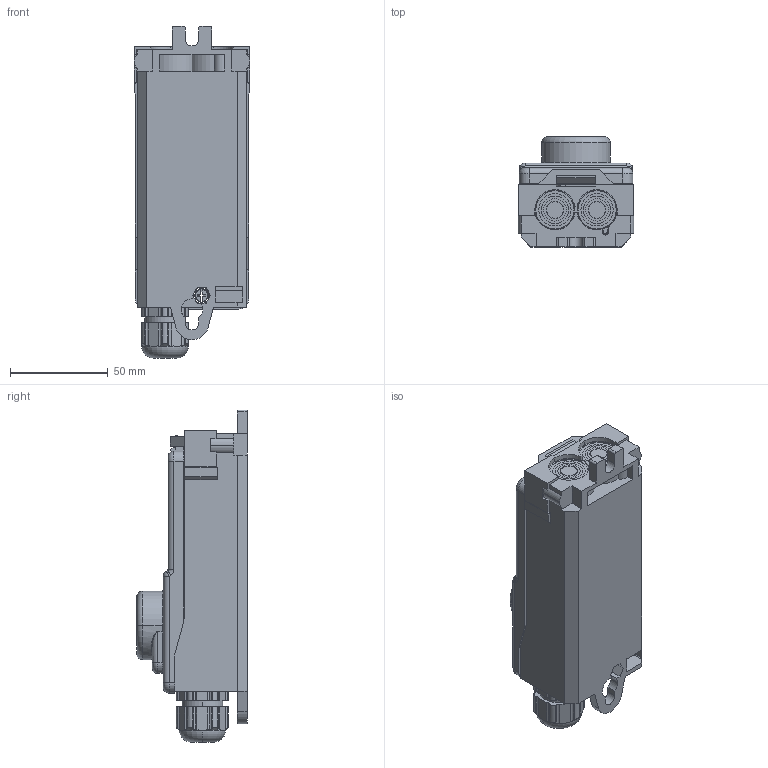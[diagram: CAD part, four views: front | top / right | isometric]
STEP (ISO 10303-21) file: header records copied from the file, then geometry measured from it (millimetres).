
FILE_DESCRIPTION (( 'STEP AP203' ), '1' );
FILE_NAME ('3D - HSW1194-PG13,5 Außenkontur.STEP', '2019-07-05T07:41:53', ( '' ), ( '' ), 'SwSTEP 2.0', 'SolidWorks 2013', '' );
FILE_SCHEMA (( 'CONFIG_CONTROL_DESIGN' ));
Length unit declared in the file: millimetre
Products named in the file (1): 3D - HSW1194-PG13,5 Außenkontur
Bounding box: 59 x 56.4 x 169.5 mm (x, y, z)
Surface area: 45151.7 mm2 (no closed solid volume)
Topology: 0 solids, 20 shells, 793 faces, 2496 edges, 1732 vertices
Faces by surface type: plane 474, cylinder 146, bspline 136, torus 24, cone 9, sphere 4
Entity records: 35891 total; most frequent: CARTESIAN_POINT 14760, ORIENTED_EDGE 4381, DIRECTION 3828, EDGE_CURVE 2496, VERTEX_POINT 1732, LINE 1684, VECTOR 1684, AXIS2_PLACEMENT_3D 1072
